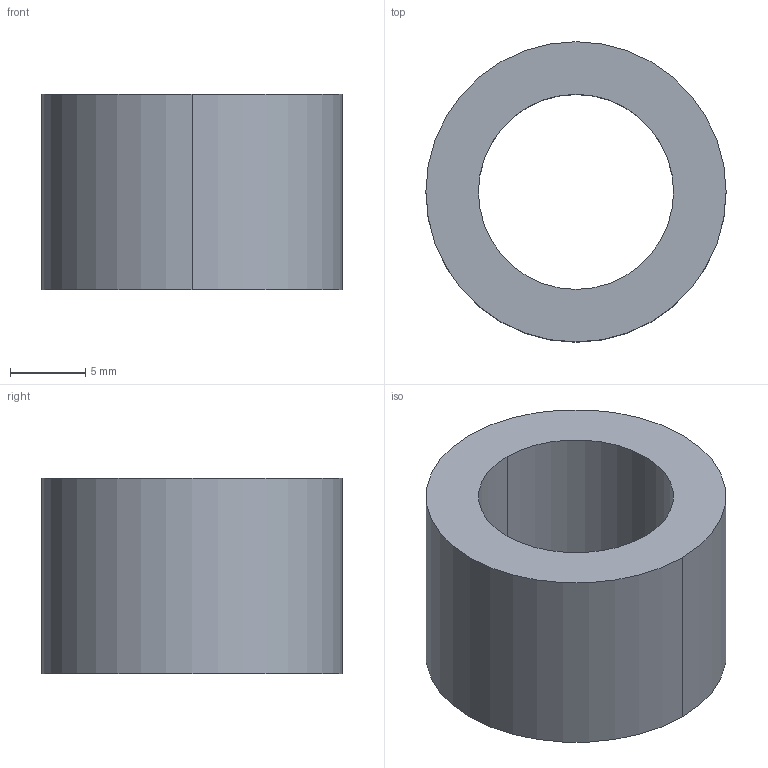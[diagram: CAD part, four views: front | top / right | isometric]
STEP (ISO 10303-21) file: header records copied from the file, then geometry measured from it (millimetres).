
FILE_DESCRIPTION(/* description */ (''),/* implementation_level */ '2;1');
FILE_NAME(/* name */ '3d_tgbz13-13_00328_r00.stp',/* time_stamp */ '2011-01-10T14:09:03+09:00',/* author */ ('MISUMI'),/* organization */ (''),/* preprocessor_version */ 'ST-DEVELOPER v11',/* originating_system */ 'UGS - NX 5.0',/* authorisation */ '');
FILE_SCHEMA (('CONFIG_CONTROL_DESIGN'));
Length unit declared in the file: millimetre
Products named in the file (1): 3d_tgbz13-13_00328_r00
Bounding box: 20 x 20 x 13 mm (x, y, z)
Volume: 2358.6 mm3; surface area: 1710.6 mm2
Topology: 1 solids, 1 shells, 6 faces, 12 edges, 8 vertices
Faces by surface type: cylinder 4, plane 2
Entity records: 254 total; most frequent: DIRECTION 34, CARTESIAN_POINT 27, ORIENTED_EDGE 24, AXIS2_PLACEMENT_3D 15, EDGE_CURVE 12, EDGE_LOOP 8, CIRCLE 8, VERTEX_POINT 8
